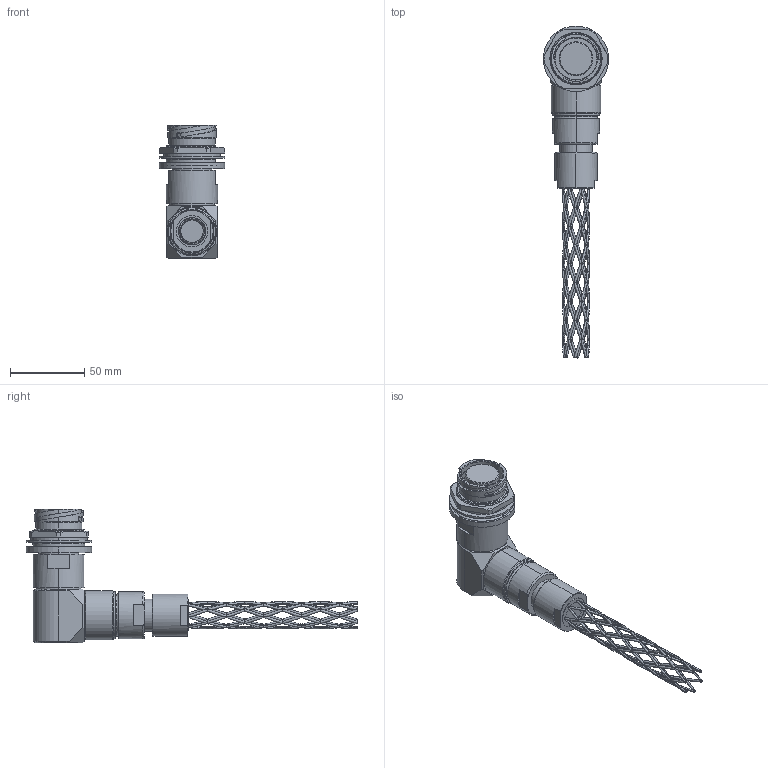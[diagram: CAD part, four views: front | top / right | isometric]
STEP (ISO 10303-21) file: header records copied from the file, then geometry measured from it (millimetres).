
FILE_DESCRIPTION (( 'STEP AP214' ), '1' );
FILE_NAME ('QLINK90-RJBX-19XX-GXXX-RA.STEP', '2025-12-17T15:42:35', ( '' ), ( '' ), 'SwSTEP 2.0', 'SolidWorks 2024', '' );
FILE_SCHEMA (( 'AUTOMOTIVE_DESIGN' ));
Length unit declared in the file: millimetre
Products named in the file (1): QLINK90-RJBX-19XX-GXXX-RA
Bounding box: 44.2 x 223.85 x 90.04 mm (x, y, z)
Volume: 137093.4 mm3; surface area: 37756 mm2
Topology: 2 solids, 4 shells, 533 faces, 1464 edges, 851 vertices
Faces by surface type: bspline 272, cylinder 92, plane 88, cone 58, torus 23
Entity records: 122711 total; most frequent: CARTESIAN_POINT 112323, ORIENTED_EDGE 2928, EDGE_CURVE 1464, DIRECTION 1404, VERTEX_POINT 851, AXIS2_PLACEMENT_3D 580, EDGE_LOOP 563, ADVANCED_FACE 533
